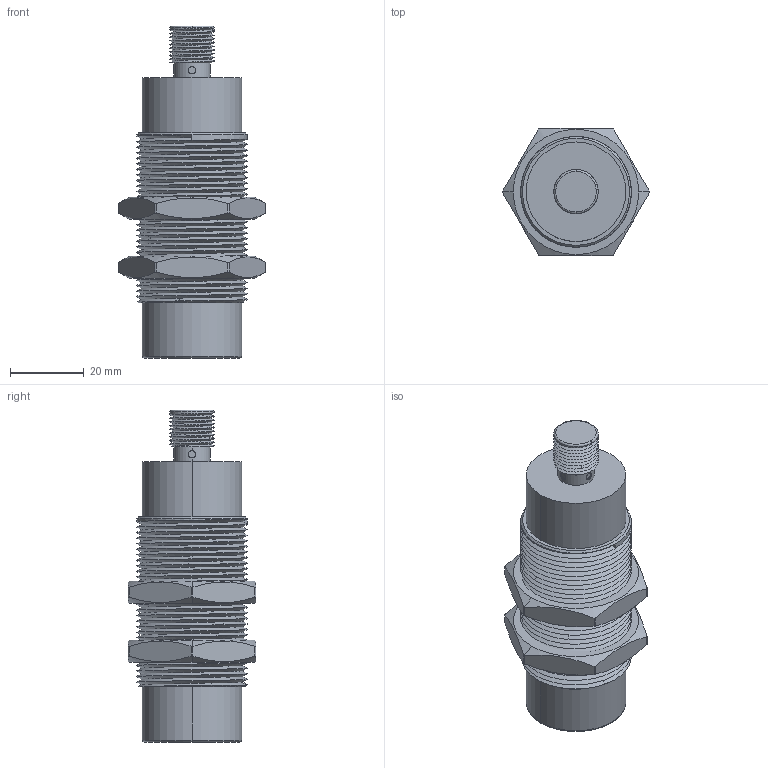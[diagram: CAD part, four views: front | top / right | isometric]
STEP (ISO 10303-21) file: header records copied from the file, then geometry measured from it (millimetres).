
FILE_DESCRIPTION((''),'2;1');
FILE_NAME('M30_MN_FQP_ES12_ASM','2019-07-17T',('Administrator'),(''),'PRO/ENGINEER BY PARAMETRIC TECHNOLOGY CORPORATION, 2012130','PRO/ENGINEER BY PARAMETRIC TECHNOLOGY CORPORATION, 2012130','');
FILE_SCHEMA(('AUTOMOTIVE_DESIGN { 1 0 10303 214 1 1 1 1 }'));
Length unit declared in the file: millimetre
Products named in the file (3): M30_MN_FQP_ES12; M30_LM; M30_MN_FQP_ES12_ASM
Assembly tree (3 placements, depth 2):
  M30_MN_FQP_ES12_ASM
    M30_MN_FQP_ES12
    M30_LM  x2
Bounding box: 39.85 x 34.64 x 90 mm (x, y, z)
Volume: 53387 mm3; surface area: 17498.6 mm2
Topology: 3 solids, 3 shells, 121 faces, 376 edges, 267 vertices
Faces by surface type: cylinder 44, bspline 32, plane 30, cone 11, torus 4
Entity records: 13289 total; most frequent: CARTESIAN_POINT 10174, ORIENTED_EDGE 586, DIRECTION 300, EDGE_CURVE 293, PRESENTATION_STYLE_ASSIGNMENT 214, VERTEX_POINT 212, STYLED_ITEM 211, CURVE_STYLE 210
